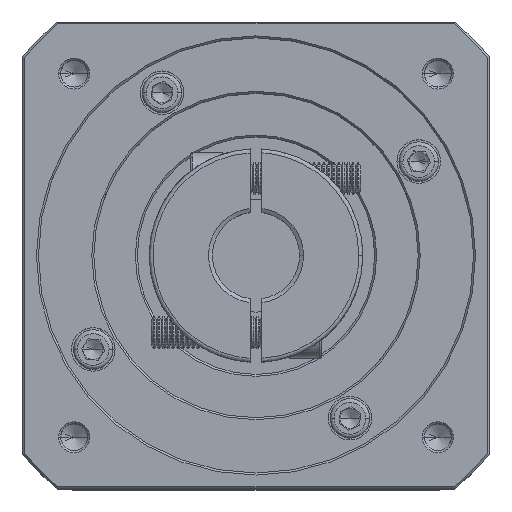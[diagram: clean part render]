
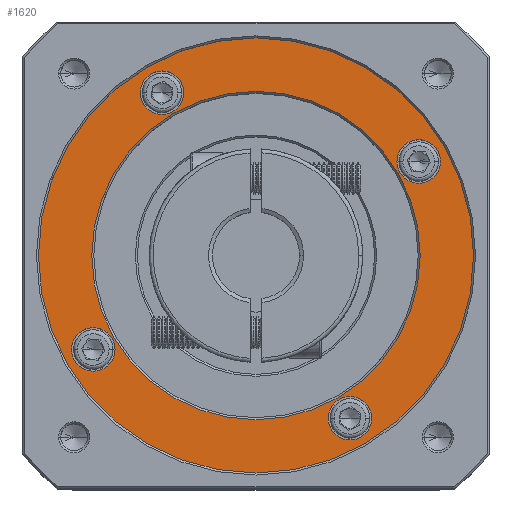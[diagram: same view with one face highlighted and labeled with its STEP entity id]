
A CAD part, top view. The second image highlights one B-rep face of the part: STEP entity #1620.
In plain terms, the highlighted planar face has unit normal (0, 0, 1).
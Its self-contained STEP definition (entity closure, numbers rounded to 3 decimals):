
#404 = VERTEX_POINT ( 'NONE', #23350 ) ;
#1620 = ADVANCED_FACE ( 'NONE', ( #45951, #3947, #22230, #90846, #37525, #100548 ), #7859, .T. ) ;
#2154 = DIRECTION ( 'NONE',  ( 0., 0., -1. ) ) ;
#2806 = DIRECTION ( 'NONE',  ( 1., 0., 0. ) ) ;
#2901 = DIRECTION ( 'NONE',  ( 1., 0., 0. ) ) ;
#3236 = AXIS2_PLACEMENT_3D ( 'NONE', #109425, #28844, #73088 ) ;
#3947 = FACE_BOUND ( 'NONE', #8235, .T. ) ;
#4524 = AXIS2_PLACEMENT_3D ( 'NONE', #13476, #57720, #2901 ) ;
#4801 = CARTESIAN_POINT ( 'NONE',  ( -27.617, -108.911, 7.293 ) ) ;
#6754 = AXIS2_PLACEMENT_3D ( 'NONE', #9835, #63544, #18882 ) ;
#7859 = PLANE ( 'NONE',  #58959 ) ;
#8235 = EDGE_LOOP ( 'NONE', ( #113823, #20794 ) ) ;
#9835 = CARTESIAN_POINT ( 'NONE',  ( 13.519, -85.161, 7.293 ) ) ;
#11963 = DIRECTION ( 'NONE',  ( 1., 0., 0. ) ) ;
#13476 = CARTESIAN_POINT ( 'NONE',  ( -68.753, -132.661, 7.293 ) ) ;
#14611 = AXIS2_PLACEMENT_3D ( 'NONE', #21294, #39955, #2806 ) ;
#14888 = AXIS2_PLACEMENT_3D ( 'NONE', #56603, #2154, #11963 ) ;
#15351 = CIRCLE ( 'NONE', #28833, 5.5 ) ;
#15865 = AXIS2_PLACEMENT_3D ( 'NONE', #70764, #97361, #71560 ) ;
#16827 = CIRCLE ( 'NONE', #4524, 5.5 ) ;
#16914 = DIRECTION ( 'NONE',  ( 0., 0., 1. ) ) ;
#17818 = EDGE_LOOP ( 'NONE', ( #38685, #40397 ) ) ;
#18599 = CARTESIAN_POINT ( 'NONE',  ( -27.617, -67.411, 7.293 ) ) ;
#18882 = DIRECTION ( 'NONE',  ( 1., 0., 0. ) ) ;
#19886 = CIRCLE ( 'NONE', #58340, 55. ) ;
#19994 = CIRCLE ( 'NONE', #84695, 5.5 ) ;
#20794 = ORIENTED_EDGE ( 'NONE', *, *, #72041, .T. ) ;
#21294 = CARTESIAN_POINT ( 'NONE',  ( -51.367, -67.775, 7.293 ) ) ;
#21619 = VERTEX_POINT ( 'NONE', #66255 ) ;
#22230 = FACE_BOUND ( 'NONE', #97109, .T. ) ;
#23350 = CARTESIAN_POINT ( 'NONE',  ( 19.019, -85.161, 7.293 ) ) ;
#23997 = VERTEX_POINT ( 'NONE', #108666 ) ;
#24951 = CARTESIAN_POINT ( 'NONE',  ( -27.617, -108.911, 7.293 ) ) ;
#25218 = VERTEX_POINT ( 'NONE', #87269 ) ;
#25603 = EDGE_CURVE ( 'NONE', #112113, #86076, #19994, .T. ) ;
#25665 = CARTESIAN_POINT ( 'NONE',  ( -56.867, -67.775, 7.293 ) ) ;
#27238 = VERTEX_POINT ( 'NONE', #18599 ) ;
#28833 = AXIS2_PLACEMENT_3D ( 'NONE', #58639, #32776, #50429 ) ;
#28844 = DIRECTION ( 'NONE',  ( 0., 0., 1. ) ) ;
#29649 = DIRECTION ( 'NONE',  ( 0., 0., -1. ) ) ;
#30906 = CARTESIAN_POINT ( 'NONE',  ( -63.253, -132.661, 7.293 ) ) ;
#31385 = CIRCLE ( 'NONE', #103581, 5.5 ) ;
#31903 = VERTEX_POINT ( 'NONE', #85151 ) ;
#32776 = DIRECTION ( 'NONE',  ( 0., 0., -1. ) ) ;
#35775 = EDGE_CURVE ( 'NONE', #59173, #25218, #51272, .T. ) ;
#37455 = EDGE_CURVE ( 'NONE', #23997, #59622, #19886, .T. ) ;
#37525 = FACE_BOUND ( 'NONE', #58640, .T. ) ;
#38563 = CIRCLE ( 'NONE', #51351, 41.5 ) ;
#38685 = ORIENTED_EDGE ( 'NONE', *, *, #37455, .T. ) ;
#39955 = DIRECTION ( 'NONE',  ( 0., 0., -1. ) ) ;
#40013 = DIRECTION ( 'NONE',  ( 0., -1., 0. ) ) ;
#40397 = ORIENTED_EDGE ( 'NONE', *, *, #81176, .T. ) ;
#41592 = ORIENTED_EDGE ( 'NONE', *, *, #75132, .T. ) ;
#43643 = ORIENTED_EDGE ( 'NONE', *, *, #25603, .T. ) ;
#45102 = EDGE_LOOP ( 'NONE', ( #43643, #41592 ) ) ;
#45849 = ORIENTED_EDGE ( 'NONE', *, *, #111468, .T. ) ;
#45951 = FACE_OUTER_BOUND ( 'NONE', #17818, .T. ) ;
#46370 = EDGE_CURVE ( 'NONE', #31903, #21619, #82647, .T. ) ;
#50429 = DIRECTION ( 'NONE',  ( 1., 0., 0. ) ) ;
#51272 = CIRCLE ( 'NONE', #14611, 5.5 ) ;
#51351 = AXIS2_PLACEMENT_3D ( 'NONE', #57089, #102097, #56702 ) ;
#51907 = DIRECTION ( 'NONE',  ( 1., 0., 0. ) ) ;
#56603 = CARTESIAN_POINT ( 'NONE',  ( -3.867, -150.047, 7.293 ) ) ;
#56702 = DIRECTION ( 'NONE',  ( 0., -1., 0. ) ) ;
#57089 = CARTESIAN_POINT ( 'NONE',  ( -27.617, -108.911, 7.293 ) ) ;
#57720 = DIRECTION ( 'NONE',  ( 0., 0., -1. ) ) ;
#58340 = AXIS2_PLACEMENT_3D ( 'NONE', #24951, #62462, #51907 ) ;
#58639 = CARTESIAN_POINT ( 'NONE',  ( 13.519, -85.161, 7.293 ) ) ;
#58640 = EDGE_LOOP ( 'NONE', ( #84454, #104432 ) ) ;
#58959 = AXIS2_PLACEMENT_3D ( 'NONE', #60790, #16914, #114857 ) ;
#59173 = VERTEX_POINT ( 'NONE', #25665 ) ;
#59622 = VERTEX_POINT ( 'NONE', #68858 ) ;
#60666 = ORIENTED_EDGE ( 'NONE', *, *, #46370, .T. ) ;
#60790 = CARTESIAN_POINT ( 'NONE',  ( -27.617, -108.911, 7.293 ) ) ;
#62462 = DIRECTION ( 'NONE',  ( 0., 0., 1. ) ) ;
#63128 = CIRCLE ( 'NONE', #15865, 5.5 ) ;
#63544 = DIRECTION ( 'NONE',  ( 0., 0., -1. ) ) ;
#65656 = CARTESIAN_POINT ( 'NONE',  ( -68.753, -132.661, 7.293 ) ) ;
#66255 = CARTESIAN_POINT ( 'NONE',  ( 1.633, -150.047, 7.293 ) ) ;
#67540 = DIRECTION ( 'NONE',  ( 0., 0., -1. ) ) ;
#68858 = CARTESIAN_POINT ( 'NONE',  ( -82.617, -108.911, 7.293 ) ) ;
#70764 = CARTESIAN_POINT ( 'NONE',  ( -51.367, -67.775, 7.293 ) ) ;
#71088 = VERTEX_POINT ( 'NONE', #86419 ) ;
#71560 = DIRECTION ( 'NONE',  ( 1., 0., 0. ) ) ;
#72041 = EDGE_CURVE ( 'NONE', #27238, #71088, #38563, .T. ) ;
#73088 = DIRECTION ( 'NONE',  ( 1., 0., 0. ) ) ;
#75132 = EDGE_CURVE ( 'NONE', #86076, #112113, #16827, .T. ) ;
#77470 = AXIS2_PLACEMENT_3D ( 'NONE', #4801, #67540, #40013 ) ;
#78209 = DIRECTION ( 'NONE',  ( 1., 0., 0. ) ) ;
#78694 = EDGE_LOOP ( 'NONE', ( #101042, #60666 ) ) ;
#80110 = EDGE_CURVE ( 'NONE', #71088, #27238, #81765, .T. ) ;
#81176 = EDGE_CURVE ( 'NONE', #59622, #23997, #112140, .T. ) ;
#81765 = CIRCLE ( 'NONE', #77470, 41.5 ) ;
#82647 = CIRCLE ( 'NONE', #14888, 5.5 ) ;
#84454 = ORIENTED_EDGE ( 'NONE', *, *, #100639, .T. ) ;
#84695 = AXIS2_PLACEMENT_3D ( 'NONE', #65656, #29649, #101981 ) ;
#85151 = CARTESIAN_POINT ( 'NONE',  ( -9.367, -150.047, 7.293 ) ) ;
#85990 = ORIENTED_EDGE ( 'NONE', *, *, #107459, .T. ) ;
#86076 = VERTEX_POINT ( 'NONE', #116262 ) ;
#86419 = CARTESIAN_POINT ( 'NONE',  ( -27.617, -150.411, 7.293 ) ) ;
#87269 = CARTESIAN_POINT ( 'NONE',  ( -45.867, -67.775, 7.293 ) ) ;
#90846 = FACE_BOUND ( 'NONE', #78694, .T. ) ;
#91468 = EDGE_CURVE ( 'NONE', #21619, #31903, #31385, .T. ) ;
#94062 = VERTEX_POINT ( 'NONE', #105370 ) ;
#96100 = CIRCLE ( 'NONE', #6754, 5.5 ) ;
#96526 = CARTESIAN_POINT ( 'NONE',  ( -3.867, -150.047, 7.293 ) ) ;
#97109 = EDGE_LOOP ( 'NONE', ( #85990, #45849 ) ) ;
#97281 = DIRECTION ( 'NONE',  ( 0., 0., -1. ) ) ;
#97361 = DIRECTION ( 'NONE',  ( 0., 0., -1. ) ) ;
#100548 = FACE_BOUND ( 'NONE', #45102, .T. ) ;
#100639 = EDGE_CURVE ( 'NONE', #25218, #59173, #63128, .T. ) ;
#101042 = ORIENTED_EDGE ( 'NONE', *, *, #91468, .T. ) ;
#101981 = DIRECTION ( 'NONE',  ( 1., 0., 0. ) ) ;
#102097 = DIRECTION ( 'NONE',  ( 0., 0., -1. ) ) ;
#103581 = AXIS2_PLACEMENT_3D ( 'NONE', #96526, #97281, #78209 ) ;
#104432 = ORIENTED_EDGE ( 'NONE', *, *, #35775, .T. ) ;
#105370 = CARTESIAN_POINT ( 'NONE',  ( 8.019, -85.161, 7.293 ) ) ;
#107459 = EDGE_CURVE ( 'NONE', #404, #94062, #15351, .T. ) ;
#108666 = CARTESIAN_POINT ( 'NONE',  ( 27.383, -108.911, 7.293 ) ) ;
#109425 = CARTESIAN_POINT ( 'NONE',  ( -27.617, -108.911, 7.293 ) ) ;
#111468 = EDGE_CURVE ( 'NONE', #94062, #404, #96100, .T. ) ;
#112113 = VERTEX_POINT ( 'NONE', #30906 ) ;
#112140 = CIRCLE ( 'NONE', #3236, 55. ) ;
#113823 = ORIENTED_EDGE ( 'NONE', *, *, #80110, .T. ) ;
#114857 = DIRECTION ( 'NONE',  ( 1., 0., 0. ) ) ;
#116262 = CARTESIAN_POINT ( 'NONE',  ( -74.253, -132.661, 7.293 ) ) ;
